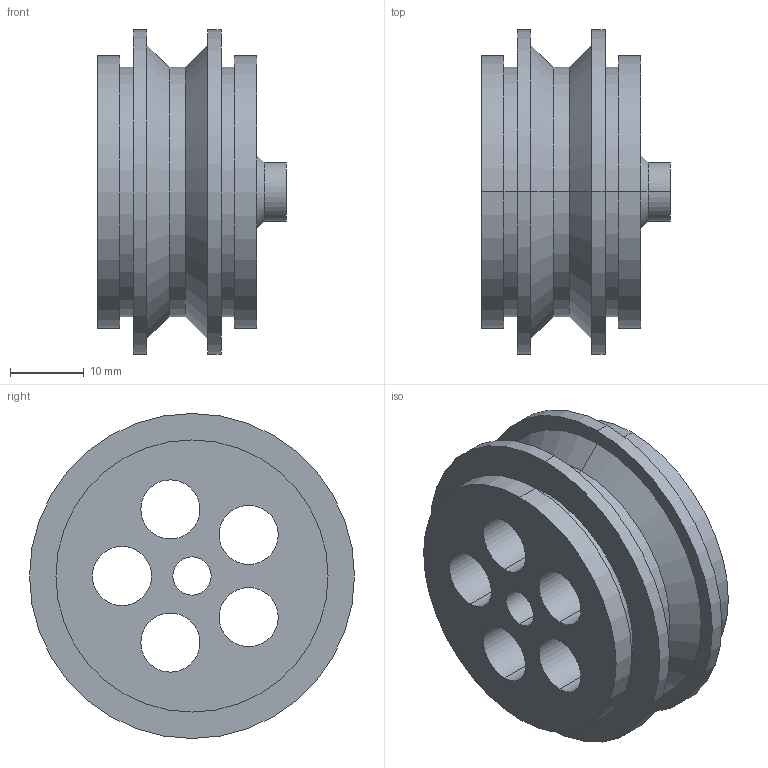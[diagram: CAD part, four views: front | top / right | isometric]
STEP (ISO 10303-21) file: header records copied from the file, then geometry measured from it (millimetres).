
FILE_DESCRIPTION (( 'STEP AP203' ), '1' );
FILE_NAME ('A_WheelV3.STEP', '2025-11-09T04:41:27', ( '' ), ( '' ), 'SwSTEP 2.0', 'SolidWorks 2025', '' );
FILE_SCHEMA (( 'CONFIG_CONTROL_DESIGN' ));
Length unit declared in the file: millimetre
Products named in the file (1): A_WheelV3
Bounding box: 25.5 x 44 x 44 mm (x, y, z)
Volume: 17864.7 mm3; surface area: 9743.9 mm2
Topology: 1 solids, 1 shells, 45 faces, 100 edges, 64 vertices
Faces by surface type: cylinder 28, plane 9, cone 8
Entity records: 1375 total; most frequent: DIRECTION 256, CARTESIAN_POINT 210, ORIENTED_EDGE 200, AXIS2_PLACEMENT_3D 110, EDGE_CURVE 100, EDGE_LOOP 64, VERTEX_POINT 64, CIRCLE 64
